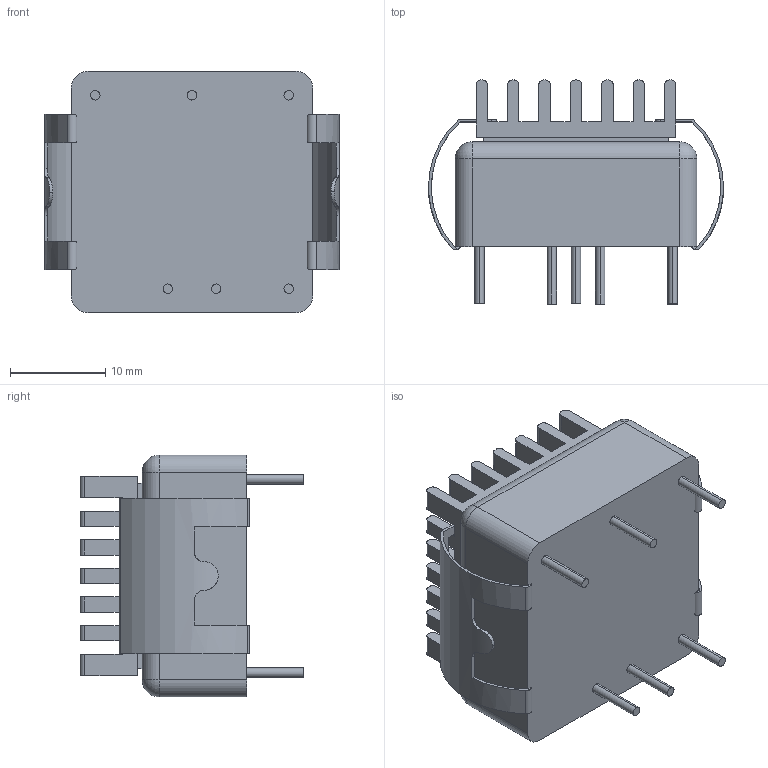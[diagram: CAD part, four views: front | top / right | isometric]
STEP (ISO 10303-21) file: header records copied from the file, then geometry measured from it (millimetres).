
FILE_DESCRIPTION (( 'STEP AP214' ), '1' );
FILE_NAME ('MJW25-HS 3D尺寸外觀圖(20240216)-FAE.STEP', '2024-02-17T00:54:06', ( '' ), ( '' ), 'SwSTEP 2.0', 'SolidWorks 2021', '' );
FILE_SCHEMA (( 'AUTOMOTIVE_DESIGN' ));
Length unit declared in the file: millimetre
Products named in the file (1): MJW25-HS 3D尺寸外觀圖(20240216)-FAE
Bounding box: 30.99 x 23.5 x 25.4 mm (x, y, z)
Volume: 8519.3 mm3; surface area: 6467.5 mm2
Topology: 5 solids, 5 shells, 449 faces, 1216 edges, 804 vertices
Faces by surface type: plane 283, cylinder 162, sphere 4
Entity records: 19287 total; most frequent: CARTESIAN_POINT 2706, ORIENTED_EDGE 2424, DIRECTION 2404, EDGE_CURVE 1212, LINE 856, VECTOR 856, VERTEX_POINT 804, AXIS2_PLACEMENT_3D 774
